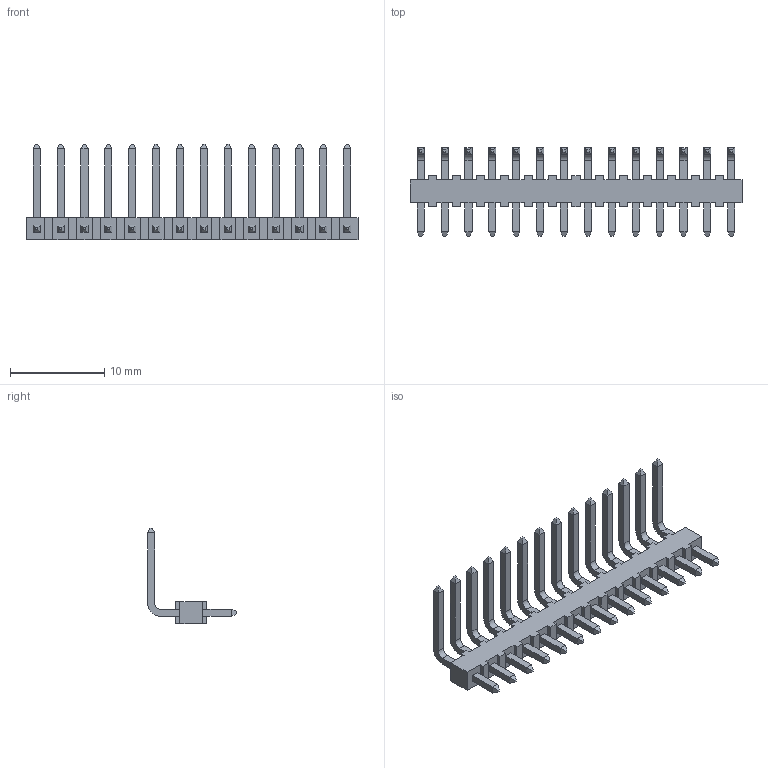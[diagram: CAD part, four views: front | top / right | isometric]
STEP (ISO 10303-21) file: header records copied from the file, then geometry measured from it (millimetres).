
FILE_DESCRIPTION((''),'2;1');
FILE_NAME('022052141','2015-10-16T',('me'),(''),'PRO/ENGINEER BY PARAMETRIC TECHNOLOGY CORPORATION, 2011490','PRO/ENGINEER BY PARAMETRIC TECHNOLOGY CORPORATION, 2011490','');
FILE_SCHEMA(('CONFIG_CONTROL_DESIGN'));
Length unit declared in the file: inch
Products named in the file (1): 022052141
Bounding box: 35.31 x 9.45 x 10.17 mm (x, y, z)
Volume: 345.4 mm3; surface area: 1045.4 mm2
Topology: 1 solids, 1 shells, 418 faces, 1080 edges, 692 vertices
Faces by surface type: plane 390, cylinder 28
Entity records: 12415 total; most frequent: CARTESIAN_POINT 2163, ORIENTED_EDGE 2104, DIRECTION 2002, EDGE_CURVE 1052, VECTOR 996, LINE 996, VERTEX_POINT 664, AXIS2_PLACEMENT_3D 503
